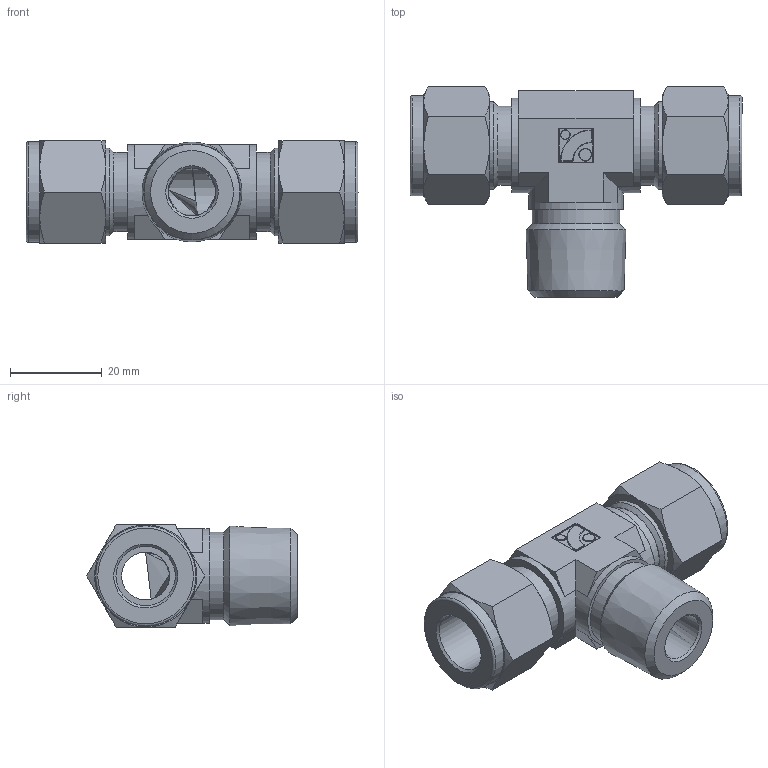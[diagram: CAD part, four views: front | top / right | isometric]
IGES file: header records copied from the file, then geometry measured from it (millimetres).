
Global section: file name: No Iges File Name specified; native system: Autodesk Inventor 2012; preprocessor: AutoDesk Inventor Iges Exporter R2012; author: 硅己绕,, ; organization: 11; date: 20150815.155229; units: millimetre
Bounding box: 72.2 x 45.83 x 22.22 mm (x, y, z)
Volume: 24351.7 mm3; surface area: 11418.4 mm2
Topology: 1 solids, 1 shells, 146 faces, 339 edges, 206 vertices
Faces by surface type: plane 62, cone 29, cylinder 23, revolution 22, torus 6, sphere 4
Full cylindrical faces by diameter (mm): 2.006 x1, 2.675 x1, 17.2 x2, 18.996 x1, 19.05 x2, 20.6 x3, 21.8 x2
